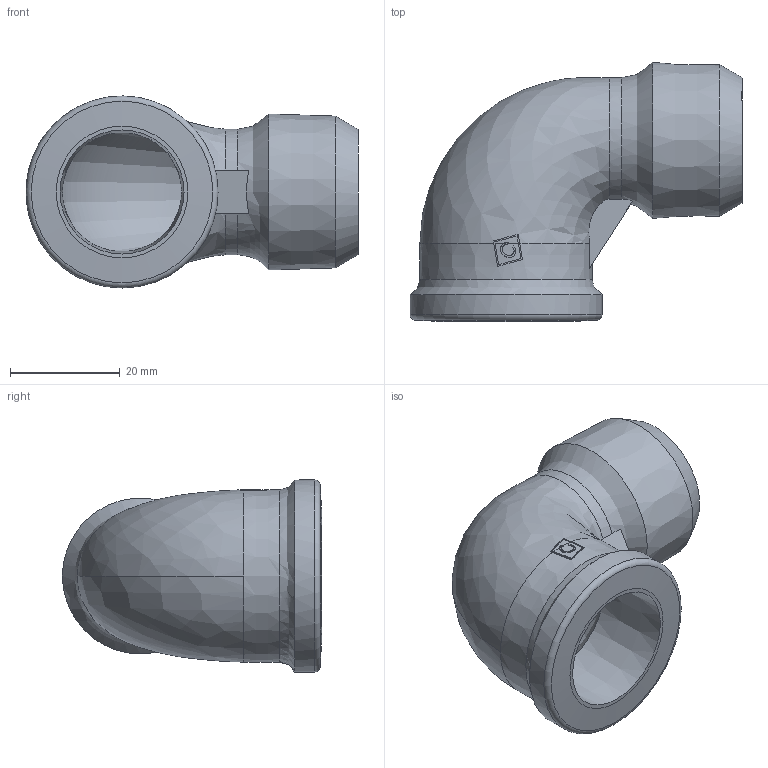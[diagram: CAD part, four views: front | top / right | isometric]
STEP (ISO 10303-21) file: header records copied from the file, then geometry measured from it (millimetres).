
FILE_DESCRIPTION((''),'2;1');
FILE_NAME('P:\Fastrack\53909_CRANE\Crane\Fig.152 M and F Elbow\New 0.75 inch\152-0.75.stp','2009-09-15T16:54:14',('btaylor'),(''),'Autodesk Inventor 2008','Autodesk Inventor 2008','');
FILE_SCHEMA(('AUTOMOTIVE_DESIGN { 1 0 10303 214 1 1 1 1 }'));
Length unit declared in the file: millimetre
Products named in the file (1): 152-0.75
Bounding box: 60.5 x 47.21 x 35 mm (x, y, z)
Volume: 19479.1 mm3; surface area: 11535.4 mm2
Topology: 1 solids, 1 shells, 45 faces, 160 edges, 116 vertices
Faces by surface type: bspline 25, plane 14, cone 4, cylinder 1, torus 1
Full cylindrical faces by diameter (mm): 35 x1
Entity records: 10037 total; most frequent: CARTESIAN_POINT 8887, ORIENTED_EDGE 308, EDGE_CURVE 154, VERTEX_POINT 116, DIRECTION 114, B_SPLINE_CURVE_WITH_KNOTS 108, EDGE_LOOP 52, AXIS2_PLACEMENT_3D 47
